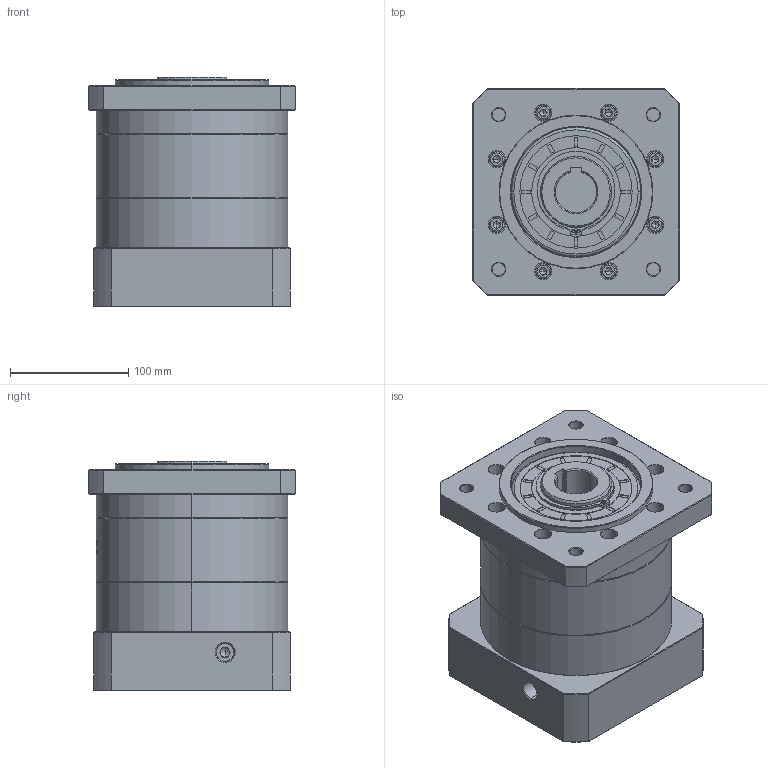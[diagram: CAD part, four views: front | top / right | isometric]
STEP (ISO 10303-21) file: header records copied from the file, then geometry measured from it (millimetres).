
FILE_DESCRIPTION (( 'STEP AP214' ), '1' );
FILE_NAME ('ZF160-K35-L1-32-150-185-M10.step', '2023-03-21T04:31:49', ( '' ), ( '' ), 'SwSTEP 2.0', 'SolidWorks 2016', '' );
FILE_SCHEMA (( 'AUTOMOTIVE_DESIGN' ));
Length unit declared in the file: millimetre
Products named in the file (1): ZF160-K35-L1-32-150-185-M10
Bounding box: 175 x 175 x 194.2 mm (x, y, z)
Volume: 3883882.3 mm3; surface area: 322712.8 mm2
Topology: 6 solids, 6 shells, 1577 faces, 4105 edges, 2631 vertices
Faces by surface type: plane 637, cylinder 389, cone 320, bspline 211, torus 20
Entity records: 86486 total; most frequent: CARTESIAN_POINT 32517, ORIENTED_EDGE 8154, DIRECTION 6946, EDGE_CURVE 4077, VERTEX_POINT 2631, AXIS2_PLACEMENT_3D 2406, LINE 2134, VECTOR 2134
